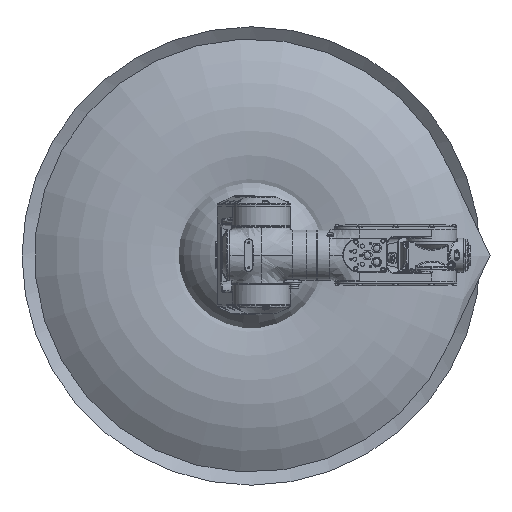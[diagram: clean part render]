
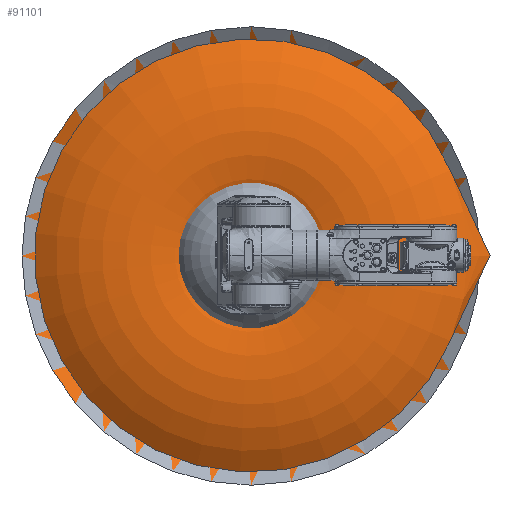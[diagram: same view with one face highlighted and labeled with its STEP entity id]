
A CAD part, top view. The second image highlights one B-rep face of the part: STEP entity #91101.
In plain terms, the highlighted toroidal (fillet/blend) face has major radius 241.761 mm and minor radius 345.909 mm.
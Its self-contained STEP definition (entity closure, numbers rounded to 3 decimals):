
#6508 = EDGE_CURVE ( 'NONE', #114082, #114082, #212510, .T. ) ;
#13247 = DIRECTION ( 'NONE',  ( 0., 0., -1. ) ) ;
#14438 = DIRECTION ( 'NONE',  ( 0., -1., 0. ) ) ;
#21377 = EDGE_LOOP ( 'NONE', ( #138418 ) ) ;
#35807 = CARTESIAN_POINT ( 'NONE',  ( 0., 130.718, 0. ) ) ;
#89268 = CARTESIAN_POINT ( 'NONE',  ( 0., -134.263, 0. ) ) ;
#91101 = ADVANCED_FACE ( 'NONE', ( #231729 ), #121844, .T. ) ;
#98752 = AXIS2_PLACEMENT_3D ( 'NONE', #89268, #126014, #216295 ) ;
#114082 = VERTEX_POINT ( 'NONE', #168746 ) ;
#121844 = TOROIDAL_SURFACE ( 'NONE', #125577, 241.761, 345.909 ) ;
#125577 = AXIS2_PLACEMENT_3D ( 'NONE', #35807, #14438, #13247 ) ;
#126014 = DIRECTION ( 'NONE',  ( 0., -1., 0. ) ) ;
#138418 = ORIENTED_EDGE ( 'NONE', *, *, #6508, .T. ) ;
#168746 = CARTESIAN_POINT ( 'NONE',  ( 0., -134.263, -464.108 ) ) ;
#212510 = CIRCLE ( 'NONE', #98752, 464.108 ) ;
#216295 = DIRECTION ( 'NONE',  ( 0., 0., -1. ) ) ;
#231729 = FACE_OUTER_BOUND ( 'NONE', #21377, .T. ) ;
